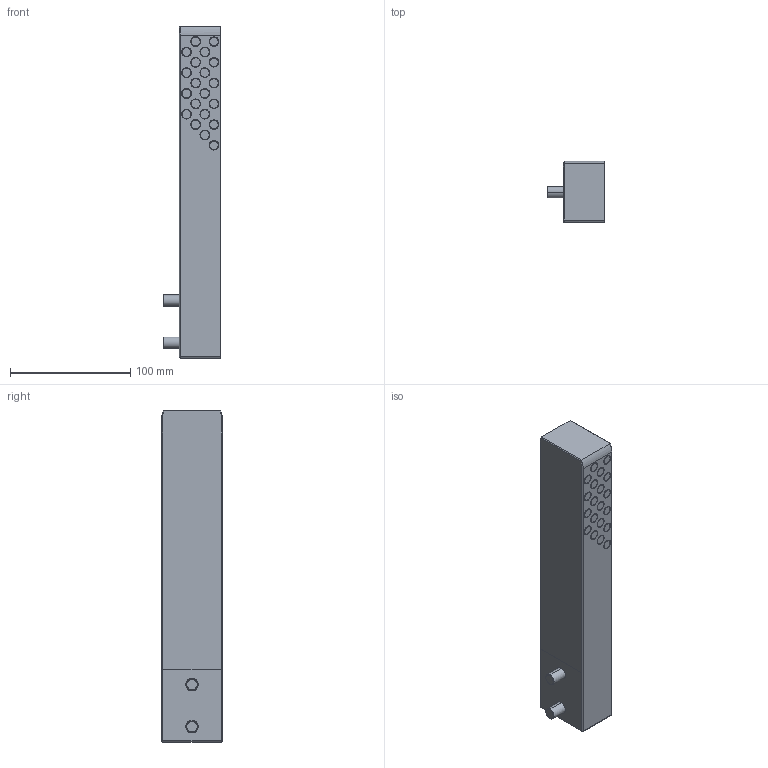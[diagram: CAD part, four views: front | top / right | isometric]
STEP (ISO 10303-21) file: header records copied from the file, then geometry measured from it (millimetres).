
FILE_DESCRIPTION (( 'STEP AP214' ), '1' );
FILE_NAME ('BLB137L11.step', '2018-04-20T15:11:11', ( '' ), ( '' ), 'SwSTEP 2.0', 'SolidWorks 2015', '' );
FILE_SCHEMA (( 'AUTOMOTIVE_DESIGN' ));
Length unit declared in the file: inch
Products named in the file (3): BLB137L11; 3-8-16x 150SHCS
Assembly tree (3 placements, depth 2):
  BLB137L11
    BLB137L11
    3-8-16x 150SHCS  x2
Bounding box: 48.26 x 50.8 x 276.35 mm (x, y, z)
Volume: 488179.7 mm3; surface area: 57011.3 mm2
Topology: 3 solids, 3 shells, 326 faces, 668 edges, 432 vertices
Faces by surface type: cylinder 184, plane 126, torus 8, cone 8
Entity records: 8232 total; most frequent: DIRECTION 1594, CARTESIAN_POINT 1354, ORIENTED_EDGE 1232, AXIS2_PLACEMENT_3D 678, EDGE_CURVE 616, VERTEX_POINT 402, EDGE_LOOP 390, CIRCLE 370
